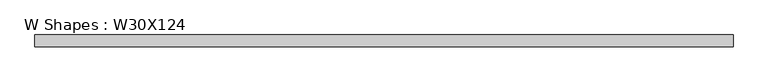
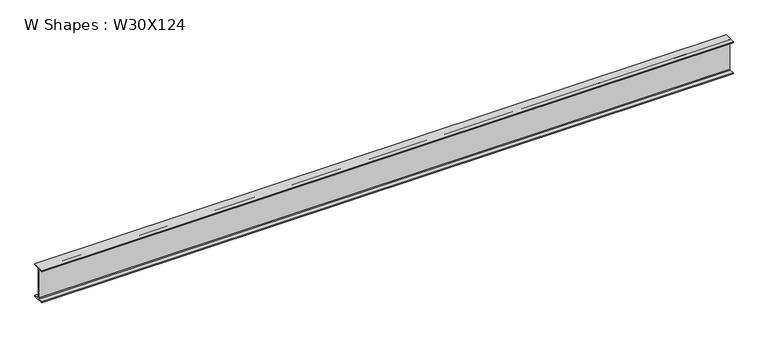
"""IFC4 building model written with IfcOpenShell, lengths in millimetres: beam geometry, W Shapes : W30X124."""

from ifc_helpers import new_model, si_unit, point, frame, frame_2d, origin, place, context, project, spatial, polyline, circle_curve, trimmed, segment, composite_curve, outline, extrude, source, transform, mapped, element, save


def w_shapes_w30x124_36e47cc1(model_context):
    return source(origin(), model_context, "Body", "SweptSolid", [
        extrude(outline(composite_curve([segment(polyline([(133.35, -359.918), (133.35, -383.54), (-133.35, -383.54), (-133.35, -359.918), (-23.9395, -359.918)]), True, "CONTINUOUS"), segment(trimmed(circle_curve(frame_2d((-23.9395, -343.408)), 16.51), [point((-23.9395, -359.918))], [point((-7.4295, -343.408))], True, "CARTESIAN"), True, "CONTINUOUS"), segment(polyline([(-7.4295, -343.408), (-7.4295, 343.408)]), True, "CONTINUOUS"), segment(trimmed(circle_curve(frame_2d((-23.9395, 343.408)), 16.51), [point((-7.4295, 343.408))], [point((-23.9395, 359.918))], True, "CARTESIAN"), True, "CONTINUOUS"), segment(polyline([(-23.9395, 359.918), (-133.35, 359.918), (-133.35, 383.54), (133.35, 383.54), (133.35, 359.918), (23.9395, 359.918)]), True, "CONTINUOUS"), segment(trimmed(circle_curve(frame_2d((23.9395, 343.408)), 16.51), [point((23.9395, 359.918))], [point((7.4295, 343.408))], True, "CARTESIAN"), True, "CONTINUOUS"), segment(polyline([(7.4295, 343.408), (7.4295, -343.408)]), True, "CONTINUOUS"), segment(trimmed(circle_curve(frame_2d((23.9395, -343.408)), 16.51), [point((7.4295, -343.408))], [point((23.9395, -359.918))], True, "CARTESIAN"), True, "CONTINUOUS"), segment(polyline([(23.9395, -359.918), (133.35, -359.918)]), True, "CONTINUOUS")], self_intersect=False)), frame((-7787.9095102, 0.0, 0.0), z_axis=(1.0, 0.0, 0.0), x_axis=(0.0, 1.0, 0.0)), (0.0, 0.0, 1.0), 15575.8190204),
    ])


if __name__ == "__main__":
    model = new_model("IFC4")
    model_context = context("Model", 3, world=origin())
    ifc_project = project(units=[si_unit("LENGTHUNIT", "METRE", prefix="MILLI")], contexts=[model_context])
    site = spatial("IfcSite", under=ifc_project)
    building = spatial("IfcBuilding", under=site)
    placement = place(None, origin())
    w_shapes_w30x124_shape = w_shapes_w30x124_36e47cc1(model_context)
    element("IfcBeam", 1, ObjectType="W Shapes : W30X124", at=placement, inside=building, context=model_context, shape_type="MappedRepresentation", body=[
        mapped(w_shapes_w30x124_shape, transform((0.0, 0.0, 0.0), x_axis=(1.0, 0.0, 0.0), y_axis=(0.0, 1.0, 0.0), z_axis=(0.0, 0.0, 1.0))),
    ])
    save(model, "model.ifc")
